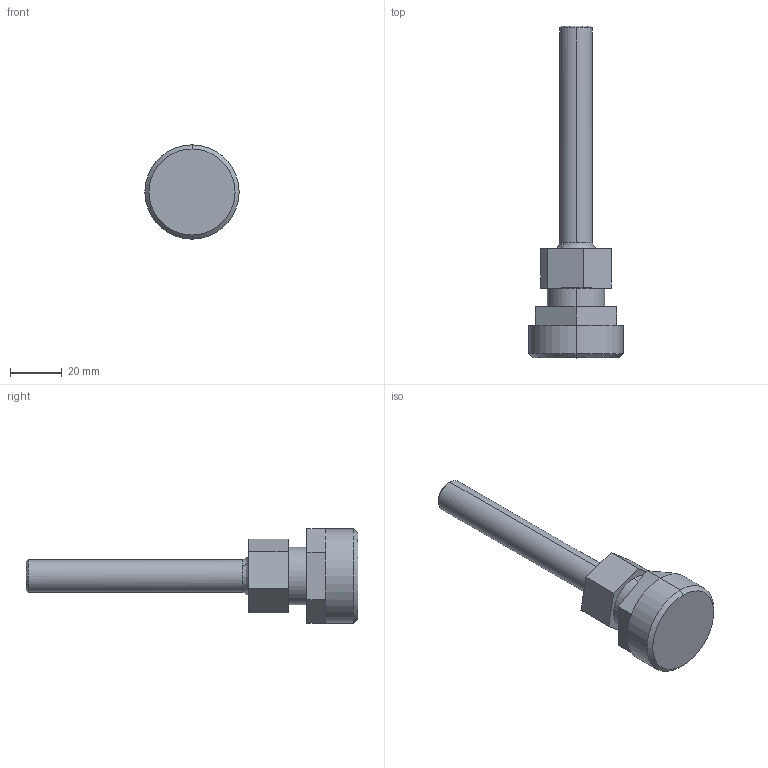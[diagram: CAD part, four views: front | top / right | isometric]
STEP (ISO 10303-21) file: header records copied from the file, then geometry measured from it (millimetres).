
FILE_DESCRIPTION (( 'STEP AP214' ), '1' );
FILE_NAME ('08-tube-out-with-top-mount-adapter.STEP', '2012-11-28T15:17:55', ( '' ), ( '' ), 'SwSTEP 2.0', 'SolidWorks 2012', '' );
FILE_SCHEMA (( 'AUTOMOTIVE_DESIGN' ));
Length unit declared in the file: inch
Products named in the file (1): 08-tube-out-with-top-mount-adapter
Bounding box: 36.6 x 128.85 x 36.66 mm (x, y, z)
Volume: 41683.5 mm3; surface area: 9804.3 mm2
Topology: 1 solids, 1 shells, 41 faces, 92 edges, 56 vertices
Faces by surface type: plane 29, cylinder 6, cone 4, bspline 2
Entity records: 1662 total; most frequent: CARTESIAN_POINT 442, DIRECTION 198, ORIENTED_EDGE 184, EDGE_CURVE 92, AXIS2_PLACEMENT_3D 70, VECTOR 58, LINE 58, VERTEX_POINT 56
